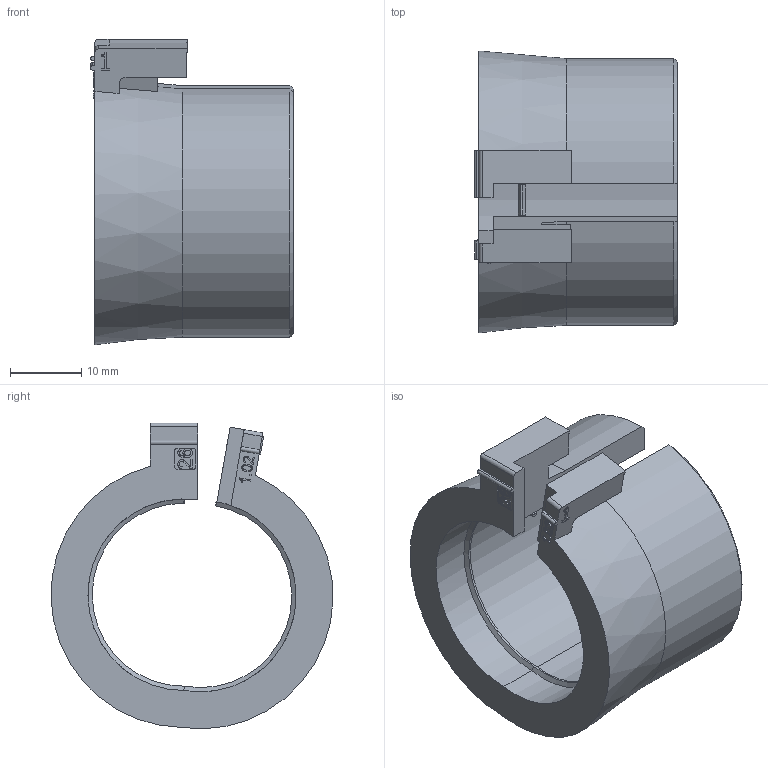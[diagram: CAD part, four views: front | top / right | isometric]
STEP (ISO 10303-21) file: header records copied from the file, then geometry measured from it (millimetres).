
FILE_DESCRIPTION(/* description */ (''),/* implementation_level */ '2;1');
FILE_NAME(/* name */ 'C:\SapWorkDir\Inventor\MP1\ConvertTempPath\87_12_121375_00_A_220530_KDT-X 26.stp',/* time_stamp */ '2022-05-31T15:05:18+02:00',/* author */ ('BAUER'),/* organization */ (''),/* preprocessor_version */ 'ST-DEVELOPER v16.13',/* originating_system */ 'Autodesk Inventor 2018',/* authorisation */ '');
FILE_SCHEMA (('AUTOMOTIVE_DESIGN { 1 0 10303 214 3 1 1 }'));
Length unit declared in the file: millimetre
Products named in the file (1): 121375
Bounding box: 28.4 x 39.45 x 42.77 mm (x, y, z)
Volume: 12371.1 mm3; surface area: 7161.6 mm2
Topology: 1 solids, 1 shells, 162 faces, 432 edges, 282 vertices
Faces by surface type: plane 88, bspline 42, cylinder 24, cone 8
Entity records: 5302 total; most frequent: CARTESIAN_POINT 1426, ORIENTED_EDGE 864, DIRECTION 641, EDGE_CURVE 432, LINE 283, VECTOR 283, VERTEX_POINT 282, AXIS2_PLACEMENT_3D 179
